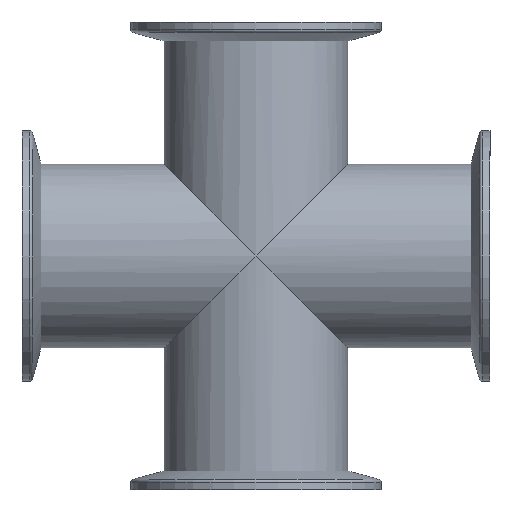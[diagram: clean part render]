
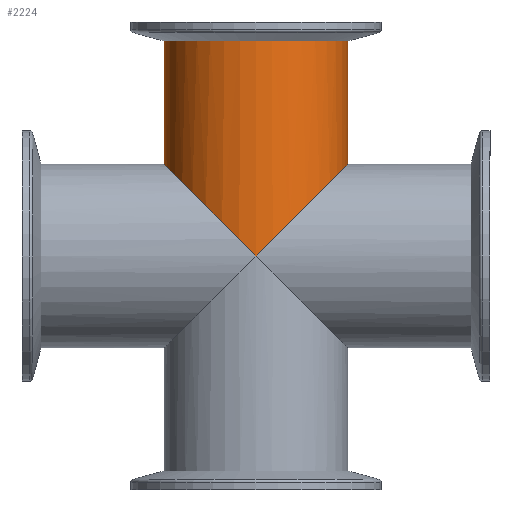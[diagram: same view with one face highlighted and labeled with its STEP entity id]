
A CAD part, front view. The second image highlights one B-rep face of the part: STEP entity #2224.
In plain terms, the highlighted cylindrical face has radius 27.5 mm (diameter 55 mm), a partial arc.
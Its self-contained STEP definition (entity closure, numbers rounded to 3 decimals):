
#6 = DIRECTION ( 'NONE',  ( -1., 0., 0. ) ) ;
#15 = ORIENTED_EDGE ( 'NONE', *, *, #1621, .F. ) ;
#102 = EDGE_CURVE ( 'NONE', #679, #1598, #1949, .T. ) ;
#114 = AXIS2_PLACEMENT_3D ( 'NONE', #2044, #229, #1043 ) ;
#172 = DIRECTION ( 'NONE',  ( 0., 0., 1. ) ) ;
#220 = CARTESIAN_POINT ( 'NONE',  ( 27.5, 0., -42.5 ) ) ;
#228 = CARTESIAN_POINT ( 'NONE',  ( 16.109, -27.5, -53.891 ) ) ;
#229 = DIRECTION ( 'NONE',  ( 0., 0., 1. ) ) ;
#407 = CARTESIAN_POINT ( 'NONE',  ( -27.5, 0., -214.282 ) ) ;
#597 = FACE_OUTER_BOUND ( 'NONE', #732, .T. ) ;
#655 = EDGE_CURVE ( 'NONE', #1188, #2247, #817, .T. ) ;
#679 = VERTEX_POINT ( 'NONE', #2244 ) ;
#732 = EDGE_LOOP ( 'NONE', ( #15, #866, #2611, #1173, #981 ) ) ;
#760 = CARTESIAN_POINT ( 'NONE',  ( -16.109, -27.5, -53.891 ) ) ;
#817 =( BOUNDED_CURVE ( )  B_SPLINE_CURVE ( 3, ( #2042, #228, #1841, #1224 ),
 .UNSPECIFIED., .F., .T. ) 
 B_SPLINE_CURVE_WITH_KNOTS ( ( 4, 4 ),
 ( 4.712, 6.283 ),
 .UNSPECIFIED. ) 
 CURVE ( )  GEOMETRIC_REPRESENTATION_ITEM ( )  RATIONAL_B_SPLINE_CURVE ( ( 1., 0.805, 0.805, 1. ) ) 
 REPRESENTATION_ITEM ( '' )  );
#826 = CARTESIAN_POINT ( 'NONE',  ( -27.5, 0., -3.5 ) ) ;
#827 = AXIS2_PLACEMENT_3D ( 'NONE', #2398, #2243, #6 ) ;
#866 = ORIENTED_EDGE ( 'NONE', *, *, #1442, .F. ) ;
#946 = CARTESIAN_POINT ( 'NONE',  ( 0., -27.5, -70. ) ) ;
#981 = ORIENTED_EDGE ( 'NONE', *, *, #102, .T. ) ;
#1019 = CYLINDRICAL_SURFACE ( 'NONE', #114, 27.5 ) ;
#1043 = DIRECTION ( 'NONE',  ( 1., 0., 0. ) ) ;
#1173 = ORIENTED_EDGE ( 'NONE', *, *, #1261, .T. ) ;
#1188 = VERTEX_POINT ( 'NONE', #946 ) ;
#1217 = CARTESIAN_POINT ( 'NONE',  ( 27.5, 0., -214.282 ) ) ;
#1224 = CARTESIAN_POINT ( 'NONE',  ( 27.5, 0., -42.5 ) ) ;
#1261 = EDGE_CURVE ( 'NONE', #2247, #679, #1625, .T. ) ;
#1389 = VECTOR ( 'NONE', #1611, 1000. ) ;
#1442 = EDGE_CURVE ( 'NONE', #1188, #1775, #1947, .T. ) ;
#1598 = VERTEX_POINT ( 'NONE', #826 ) ;
#1611 = DIRECTION ( 'NONE',  ( 0., 0., 1. ) ) ;
#1621 = EDGE_CURVE ( 'NONE', #1775, #1598, #2606, .T. ) ;
#1625 = LINE ( 'NONE', #1217, #1743 ) ;
#1691 = CARTESIAN_POINT ( 'NONE',  ( -27.5, 0., -42.5 ) ) ;
#1743 = VECTOR ( 'NONE', #172, 1000. ) ;
#1775 = VERTEX_POINT ( 'NONE', #1691 ) ;
#1789 = CARTESIAN_POINT ( 'NONE',  ( -27.5, 0., -42.5 ) ) ;
#1806 = CARTESIAN_POINT ( 'NONE',  ( -27.5, -16.109, -42.5 ) ) ;
#1841 = CARTESIAN_POINT ( 'NONE',  ( 27.5, -16.109, -42.5 ) ) ;
#1947 =( BOUNDED_CURVE ( )  B_SPLINE_CURVE ( 3, ( #1978, #760, #1806, #1789 ),
 .UNSPECIFIED., .F., .T. ) 
 B_SPLINE_CURVE_WITH_KNOTS ( ( 4, 4 ),
 ( 4.712, 6.283 ),
 .UNSPECIFIED. ) 
 CURVE ( )  GEOMETRIC_REPRESENTATION_ITEM ( )  RATIONAL_B_SPLINE_CURVE ( ( 1., 0.805, 0.805, 1. ) ) 
 REPRESENTATION_ITEM ( '' )  );
#1949 = CIRCLE ( 'NONE', #827, 27.5 ) ;
#1978 = CARTESIAN_POINT ( 'NONE',  ( 0., -27.5, -70. ) ) ;
#2042 = CARTESIAN_POINT ( 'NONE',  ( 0., -27.5, -70. ) ) ;
#2044 = CARTESIAN_POINT ( 'NONE',  ( 0., 0., -214.282 ) ) ;
#2224 = ADVANCED_FACE ( 'NONE', ( #597 ), #1019, .T. ) ;
#2243 = DIRECTION ( 'NONE',  ( 0., 0., -1. ) ) ;
#2244 = CARTESIAN_POINT ( 'NONE',  ( 27.5, 0., -3.5 ) ) ;
#2247 = VERTEX_POINT ( 'NONE', #220 ) ;
#2398 = CARTESIAN_POINT ( 'NONE',  ( 0., 0., -3.5 ) ) ;
#2606 = LINE ( 'NONE', #407, #1389 ) ;
#2611 = ORIENTED_EDGE ( 'NONE', *, *, #655, .T. ) ;
